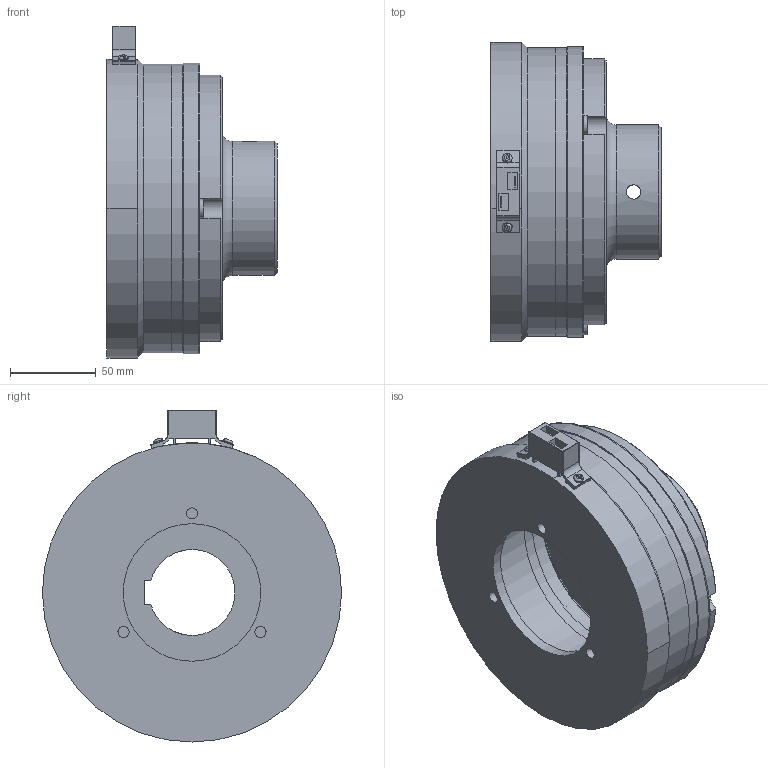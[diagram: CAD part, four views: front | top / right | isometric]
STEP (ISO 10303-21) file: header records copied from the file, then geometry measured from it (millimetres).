
FILE_DESCRIPTION(/* description */ (''),/* implementation_level */ '2;1');
FILE_NAME(/* name */ 'X:\INVENTOR\DISEGNI\08_Freni_Friz_Elettmag_Monodisco\08_28 EMFL_DF\EMFL_DF STEP\08_28_170_12 EMFL170_DF-C-ME_S@STEP.stp',/* time_stamp */ '2018-04-23T10:46:27+02:00',/* author */ ('stefano'),/* organization */ (''),/* preprocessor_version */ 'ST-DEVELOPER v17',/* originating_system */ 'Autodesk Inventor 2018',/* authorisation */ '');
FILE_SCHEMA (('AUTOMOTIVE_DESIGN { 1 0 10303 214 3 1 1 }'));
Length unit declared in the file: millimetre
Products named in the file (1): 08_28_170_12 EMFL170_DF-C-ME - Spina_Substitute_1
Bounding box: 99 x 174 x 193.14 mm (x, y, z)
Volume: 938218.7 mm3; surface area: 207135.9 mm2
Topology: 1 solids, 1 shells, 423 faces, 1204 edges, 768 vertices
Faces by surface type: cylinder 219, plane 127, torus 33, cone 24, sphere 20
Full cylindrical faces by diameter (mm): 5.6 x2, 6 x1, 6.5 x3, 8.376 x2, 10 x3, 11 x12, 12 x3, 78 x1, 80 x1, 104 x2, 105 x1, 106 x1, 122 x1, 129 x2, 149 x2, 155 x1, 168 x2, 169 x2
Entity records: 14973 total; most frequent: CARTESIAN_POINT 3051, DIRECTION 2640, ORIENTED_EDGE 2356, EDGE_CURVE 1178, AXIS2_PLACEMENT_3D 1115, VERTEX_POINT 768, CIRCLE 691, EDGE_LOOP 508
